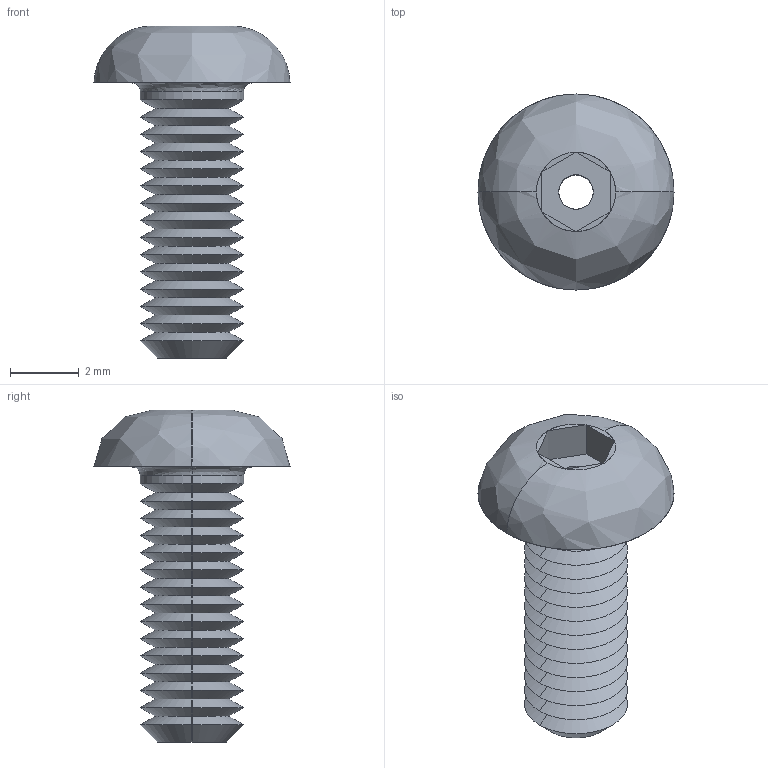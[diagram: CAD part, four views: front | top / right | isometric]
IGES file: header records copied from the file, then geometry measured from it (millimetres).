
Start section: SolidWorks IGES file using analytic representation for surfaces
Global section: file name: C:\Users\liam_\OneDrive\Documents\WORK\Work for WixRoyd\Job Files\J-00019 - Matt Davis CAD Checking\04. CAD Drawings\automotion20190605\P0094_v2\P0094_v2_20190712_IGES\P0094.030-008-A2.igs; native system: SolidWorks 2017; preprocessor: SolidWorks 2017; author: liam_; date: 190712.175126; units: millimetre
Bounding box: 5.7 x 5.7 x 9.65 mm (x, y, z)
Surface area: 217.2 mm2 (no closed solid volume)
Topology: 0 solids, 0 shells, 81 faces, 482 edges, 482 vertices
Faces by surface type: revolution 62, bspline 19
